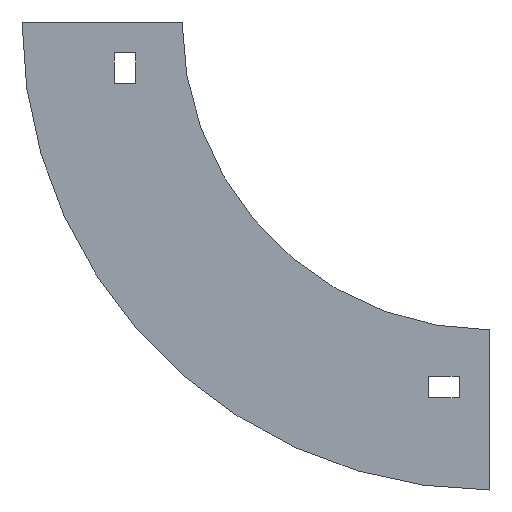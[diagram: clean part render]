
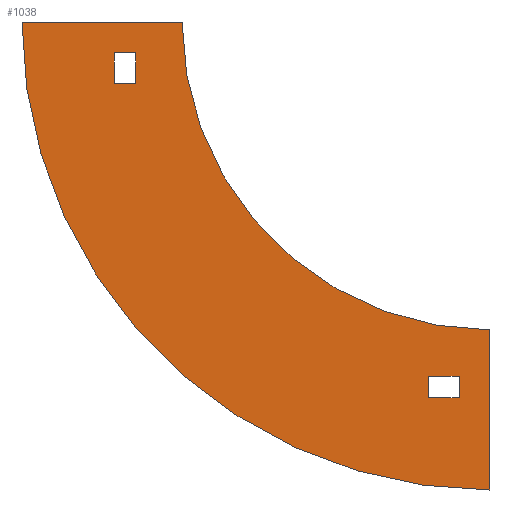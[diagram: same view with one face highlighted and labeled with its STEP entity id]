
A CAD part, left-side view. The second image highlights one B-rep face of the part: STEP entity #1038.
In plain terms, the highlighted planar face has unit normal (-1, 0, 0).
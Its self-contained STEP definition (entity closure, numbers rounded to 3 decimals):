
#45 = VERTEX_POINT ( 'NONE', #470 ) ;
#56 = CARTESIAN_POINT ( 'NONE',  ( -27., 22., -10. ) ) ;
#76 = LINE ( 'NONE', #81, #1066 ) ;
#81 = CARTESIAN_POINT ( 'NONE',  ( -27., 22., -20. ) ) ;
#87 = LINE ( 'NONE', #435, #666 ) ;
#88 = DIRECTION ( 'NONE',  ( 0., 0., -1. ) ) ;
#90 = DIRECTION ( 'NONE',  ( 0., 0., 1. ) ) ;
#96 = DIRECTION ( 'NONE',  ( 0., -1., 0. ) ) ;
#126 = CARTESIAN_POINT ( 'NONE',  ( -27., -90., -122. ) ) ;
#128 = VECTOR ( 'NONE', #601, 1000. ) ;
#155 = DIRECTION ( 'NONE',  ( -1., 0., 0. ) ) ;
#170 = ORIENTED_EDGE ( 'NONE', *, *, #616, .F. ) ;
#174 = VERTEX_POINT ( 'NONE', #698 ) ;
#177 = VERTEX_POINT ( 'NONE', #1138 ) ;
#185 = LINE ( 'NONE', #625, #610 ) ;
#188 = EDGE_CURVE ( 'NONE', #45, #199, #906, .T. ) ;
#190 = CARTESIAN_POINT ( 'NONE',  ( -27., 22., -10. ) ) ;
#199 = VERTEX_POINT ( 'NONE', #359 ) ;
#200 = CARTESIAN_POINT ( 'NONE',  ( -27., -100., -152. ) ) ;
#207 = VECTOR ( 'NONE', #425, 1000. ) ;
#214 = ORIENTED_EDGE ( 'NONE', *, *, #530, .F. ) ;
#220 = EDGE_LOOP ( 'NONE', ( #644, #699, #170, #521 ) ) ;
#244 = LINE ( 'NONE', #763, #128 ) ;
#250 = ORIENTED_EDGE ( 'NONE', *, *, #938, .F. ) ;
#253 = CARTESIAN_POINT ( 'NONE',  ( -27., 15., -20. ) ) ;
#329 = DIRECTION ( 'NONE',  ( 0., 1., 0. ) ) ;
#330 = CARTESIAN_POINT ( 'NONE',  ( -27., 22., -20. ) ) ;
#356 = VERTEX_POINT ( 'NONE', #579 ) ;
#357 = DIRECTION ( 'NONE',  ( 0., 0., 1. ) ) ;
#359 = CARTESIAN_POINT ( 'NONE',  ( -27., -90., -122. ) ) ;
#365 = VERTEX_POINT ( 'NONE', #1041 ) ;
#380 = VECTOR ( 'NONE', #88, 1000. ) ;
#386 = FACE_BOUND ( 'NONE', #392, .T. ) ;
#392 = EDGE_LOOP ( 'NONE', ( #214, #250, #907, #617 ) ) ;
#422 = EDGE_CURVE ( 'NONE', #1018, #573, #244, .T. ) ;
#425 = DIRECTION ( 'NONE',  ( 0., -1., 0. ) ) ;
#427 = VECTOR ( 'NONE', #844, 1000. ) ;
#431 = DIRECTION ( 'NONE',  ( 0., 0., 1. ) ) ;
#435 = CARTESIAN_POINT ( 'NONE',  ( -27., -90., -115. ) ) ;
#457 = DIRECTION ( 'NONE',  ( 0., 0., -1. ) ) ;
#461 = EDGE_LOOP ( 'NONE', ( #978, #1107, #920, #885 ) ) ;
#464 = VECTOR ( 'NONE', #357, 1000. ) ;
#470 = CARTESIAN_POINT ( 'NONE',  ( -27., -80., -122. ) ) ;
#471 = FACE_OUTER_BOUND ( 'NONE', #220, .T. ) ;
#494 = EDGE_CURVE ( 'NONE', #573, #525, #605, .T. ) ;
#521 = ORIENTED_EDGE ( 'NONE', *, *, #1056, .F. ) ;
#523 = AXIS2_PLACEMENT_3D ( 'NONE', #1065, #592, #431 ) ;
#525 = VERTEX_POINT ( 'NONE', #253 ) ;
#530 = EDGE_CURVE ( 'NONE', #177, #365, #87, .T. ) ;
#539 = EDGE_CURVE ( 'NONE', #365, #45, #185, .T. ) ;
#573 = VERTEX_POINT ( 'NONE', #899 ) ;
#579 = CARTESIAN_POINT ( 'NONE',  ( -27., 0., 0. ) ) ;
#592 = DIRECTION ( 'NONE',  ( 1., 0., 0. ) ) ;
#600 = CARTESIAN_POINT ( 'NONE',  ( -27., 52., 0. ) ) ;
#601 = DIRECTION ( 'NONE',  ( 0., -1., 0. ) ) ;
#605 = LINE ( 'NONE', #774, #1016 ) ;
#610 = VECTOR ( 'NONE', #457, 1000. ) ;
#616 = EDGE_CURVE ( 'NONE', #886, #174, #827, .T. ) ;
#617 = ORIENTED_EDGE ( 'NONE', *, *, #539, .F. ) ;
#625 = CARTESIAN_POINT ( 'NONE',  ( -27., -80., -122. ) ) ;
#633 = CARTESIAN_POINT ( 'NONE',  ( -27., -90., -122. ) ) ;
#644 = ORIENTED_EDGE ( 'NONE', *, *, #738, .F. ) ;
#647 = VECTOR ( 'NONE', #96, 1000. ) ;
#660 = EDGE_CURVE ( 'NONE', #174, #356, #871, .T. ) ;
#662 = LINE ( 'NONE', #126, #427 ) ;
#666 = VECTOR ( 'NONE', #329, 1000. ) ;
#674 = FACE_BOUND ( 'NONE', #461, .T. ) ;
#698 = CARTESIAN_POINT ( 'NONE',  ( -27., 52., 0. ) ) ;
#699 = ORIENTED_EDGE ( 'NONE', *, *, #660, .F. ) ;
#724 = EDGE_CURVE ( 'NONE', #525, #1081, #76, .T. ) ;
#738 = EDGE_CURVE ( 'NONE', #356, #1074, #760, .T. ) ;
#744 = PLANE ( 'NONE',  #881 ) ;
#745 = EDGE_CURVE ( 'NONE', #1081, #1018, #799, .T. ) ;
#760 = CIRCLE ( 'NONE', #876, 100. ) ;
#763 = CARTESIAN_POINT ( 'NONE',  ( -27., 22., -10. ) ) ;
#774 = CARTESIAN_POINT ( 'NONE',  ( -27., 15., -10. ) ) ;
#786 = DIRECTION ( 'NONE',  ( 0., 1., 0. ) ) ;
#799 = LINE ( 'NONE', #190, #464 ) ;
#827 = CIRCLE ( 'NONE', #523, 152. ) ;
#844 = DIRECTION ( 'NONE',  ( 0., 0., 1. ) ) ;
#871 = LINE ( 'NONE', #600, #207 ) ;
#876 = AXIS2_PLACEMENT_3D ( 'NONE', #973, #883, #90 ) ;
#880 = CARTESIAN_POINT ( 'NONE',  ( -27., -100., -100. ) ) ;
#881 = AXIS2_PLACEMENT_3D ( 'NONE', #1132, #155, #971 ) ;
#883 = DIRECTION ( 'NONE',  ( -1., 0., 0. ) ) ;
#885 = ORIENTED_EDGE ( 'NONE', *, *, #745, .T. ) ;
#886 = VERTEX_POINT ( 'NONE', #200 ) ;
#899 = CARTESIAN_POINT ( 'NONE',  ( -27., 15., -10. ) ) ;
#906 = LINE ( 'NONE', #633, #647 ) ;
#907 = ORIENTED_EDGE ( 'NONE', *, *, #188, .F. ) ;
#920 = ORIENTED_EDGE ( 'NONE', *, *, #724, .T. ) ;
#938 = EDGE_CURVE ( 'NONE', #199, #177, #662, .T. ) ;
#963 = LINE ( 'NONE', #880, #380 ) ;
#971 = DIRECTION ( 'NONE',  ( 0., 0., 1. ) ) ;
#973 = CARTESIAN_POINT ( 'NONE',  ( -27., -100., 0. ) ) ;
#978 = ORIENTED_EDGE ( 'NONE', *, *, #422, .T. ) ;
#1016 = VECTOR ( 'NONE', #1129, 1000. ) ;
#1018 = VERTEX_POINT ( 'NONE', #56 ) ;
#1035 = CARTESIAN_POINT ( 'NONE',  ( -27., -100., -100. ) ) ;
#1038 = ADVANCED_FACE ( 'NONE', ( #674, #471, #386 ), #744, .T. ) ;
#1041 = CARTESIAN_POINT ( 'NONE',  ( -27., -80., -115. ) ) ;
#1056 = EDGE_CURVE ( 'NONE', #1074, #886, #963, .T. ) ;
#1065 = CARTESIAN_POINT ( 'NONE',  ( -27., -100., 0. ) ) ;
#1066 = VECTOR ( 'NONE', #786, 1000. ) ;
#1074 = VERTEX_POINT ( 'NONE', #1035 ) ;
#1081 = VERTEX_POINT ( 'NONE', #330 ) ;
#1107 = ORIENTED_EDGE ( 'NONE', *, *, #494, .T. ) ;
#1129 = DIRECTION ( 'NONE',  ( 0., 0., -1. ) ) ;
#1132 = CARTESIAN_POINT ( 'NONE',  ( -27., -100., 0. ) ) ;
#1138 = CARTESIAN_POINT ( 'NONE',  ( -27., -90., -115. ) ) ;
